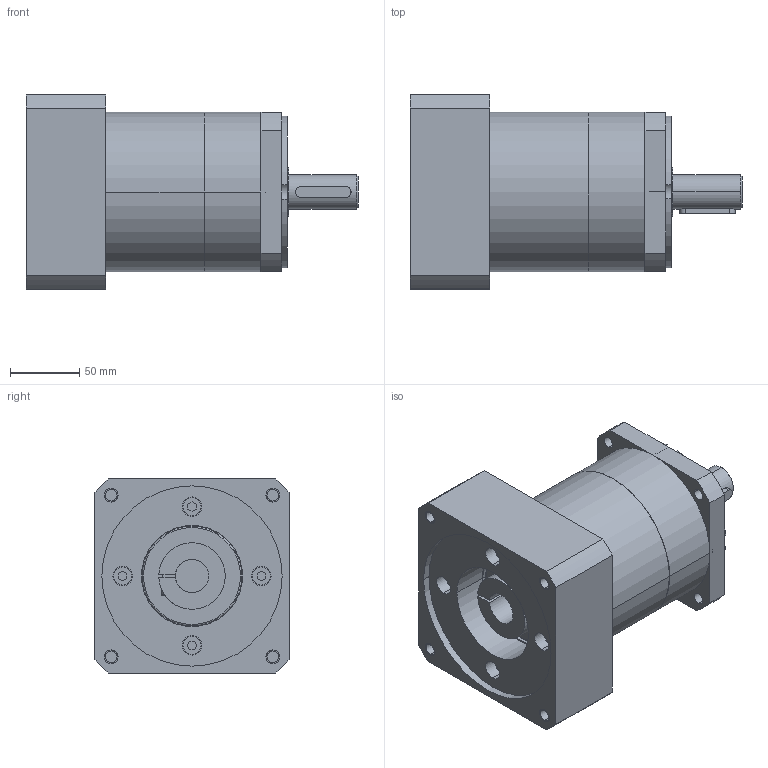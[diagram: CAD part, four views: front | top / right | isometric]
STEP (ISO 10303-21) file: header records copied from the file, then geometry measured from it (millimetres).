
FILE_DESCRIPTION((''),'2;1');
FILE_NAME('MB_PLE_MASTER','2019-12-04T',('agw'),(''),'CREO PARAMETRIC BY PTC INC, 2015290','CREO PARAMETRIC BY PTC INC, 2015290','');
FILE_SCHEMA(('AUTOMOTIVE_DESIGN { 1 0 10303 214 1 1 1 1 }'));
Length unit declared in the file: millimetre
Products named in the file (1): MB_PLE_MASTER
Bounding box: 239.5 x 140 x 140 mm (x, y, z)
Volume: 2340398.4 mm3; surface area: 160836.3 mm2
Topology: 1 solids, 6 shells, 246 faces, 584 edges, 381 vertices
Faces by surface type: plane 127, cylinder 107, cone 6, torus 6
Entity records: 7818 total; most frequent: DIRECTION 1310, CARTESIAN_POINT 1279, ORIENTED_EDGE 1144, EDGE_CURVE 582, AXIS2_PLACEMENT_3D 485, VERTEX_POINT 381, VECTOR 340, LINE 340
